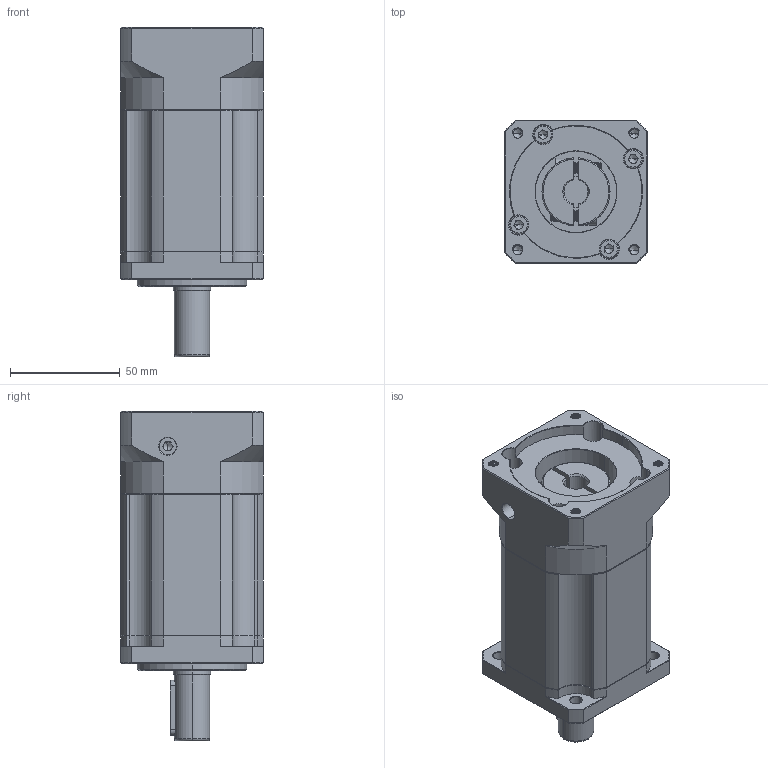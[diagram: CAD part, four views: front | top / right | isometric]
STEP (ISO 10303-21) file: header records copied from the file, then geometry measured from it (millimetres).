
FILE_DESCRIPTION (( 'STEP AP214' ), '1' );
FILE_NAME ('ZB060-D16-L3-P2-11-60-75-M5.step', '2023-08-16T07:07:43', ( '' ), ( '' ), 'SwSTEP 2.0', 'SolidWorks 2016', '' );
FILE_SCHEMA (( 'AUTOMOTIVE_DESIGN' ));
Length unit declared in the file: millimetre
Products named in the file (1): ZB060-D16-L3-P2-11-60-75-M5
Bounding box: 65 x 65 x 150 mm (x, y, z)
Volume: 387639.1 mm3; surface area: 62688.4 mm2
Topology: 6 solids, 6 shells, 2172 faces, 5855 edges, 3767 vertices
Faces by surface type: plane 1059, bspline 397, cylinder 396, cone 286, torus 34
Entity records: 118074 total; most frequent: CARTESIAN_POINT 42791, ORIENTED_EDGE 11650, DIRECTION 9186, EDGE_CURVE 5825, VERTEX_POINT 3767, LINE 3662, VECTOR 3662, AXIS2_PLACEMENT_3D 2762
